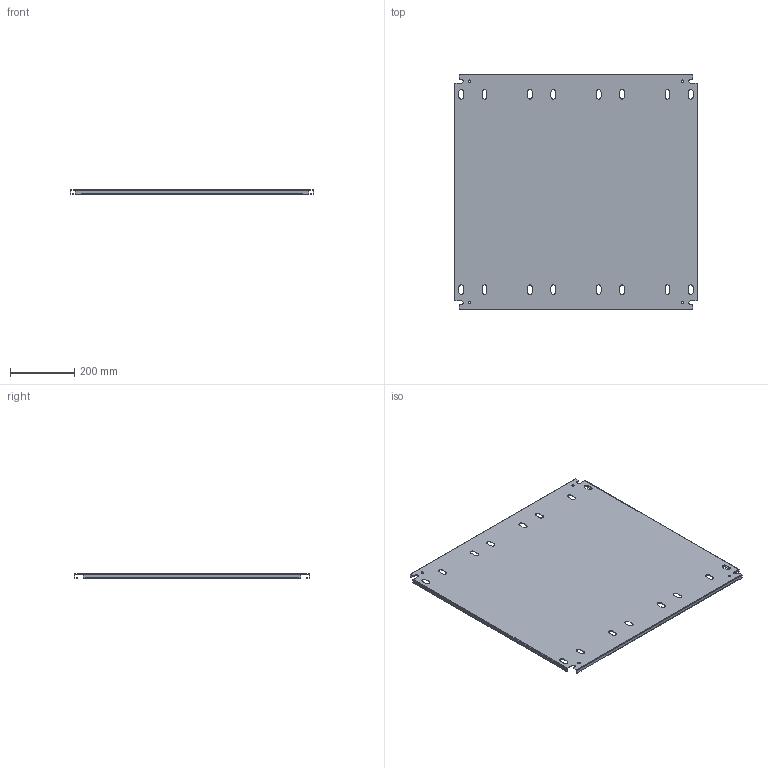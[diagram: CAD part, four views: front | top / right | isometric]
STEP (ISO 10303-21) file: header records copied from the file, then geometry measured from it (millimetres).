
FILE_DESCRIPTION(/* description */ ('1412BTCU 29.975" x 29" Left Inner Panel'),/* implementation_level */ '2;1');
FILE_NAME(/* name */ 'C:\Vault_Workspace\Inventor_Dwg\BoxCad\Result\1412BTCU122504\e-mail\3D\1412BTCU122504IP1.stp',/* time_stamp */ '2022-09-22T03:17:09-04:00',/* author */ ('BoxCad'),/* organization */ (''),/* preprocessor_version */ 'ST-DEVELOPER v18.1',/* originating_system */ 'Autodesk Inventor 2020',/* authorisation */ '');
FILE_SCHEMA (('AUTOMOTIVE_DESIGN { 1 0 10303 214 3 1 1 }'));
Length unit declared in the file: inch
Products named in the file (2): 1412BTCU122504IP1; 1412BTCU122504IP1-P
Assembly tree (1 placements, depth 2):
  1412BTCU122504IP1
    1412BTCU122504IP1-P
Bounding box: 761.37 x 736.6 x 13 mm (x, y, z)
Volume: 1043255 mm3; surface area: 1215880.3 mm2
Topology: 1 solids, 1 shells, 174 faces, 516 edges, 344 vertices
Faces by surface type: plane 98, cylinder 76
Full cylindrical faces by diameter (mm): 7.366 x4
Entity records: 6001 total; most frequent: CARTESIAN_POINT 1037, ORIENTED_EDGE 1032, DIRECTION 1022, EDGE_CURVE 516, LINE 364, VECTOR 364, VERTEX_POINT 344, AXIS2_PLACEMENT_3D 329
